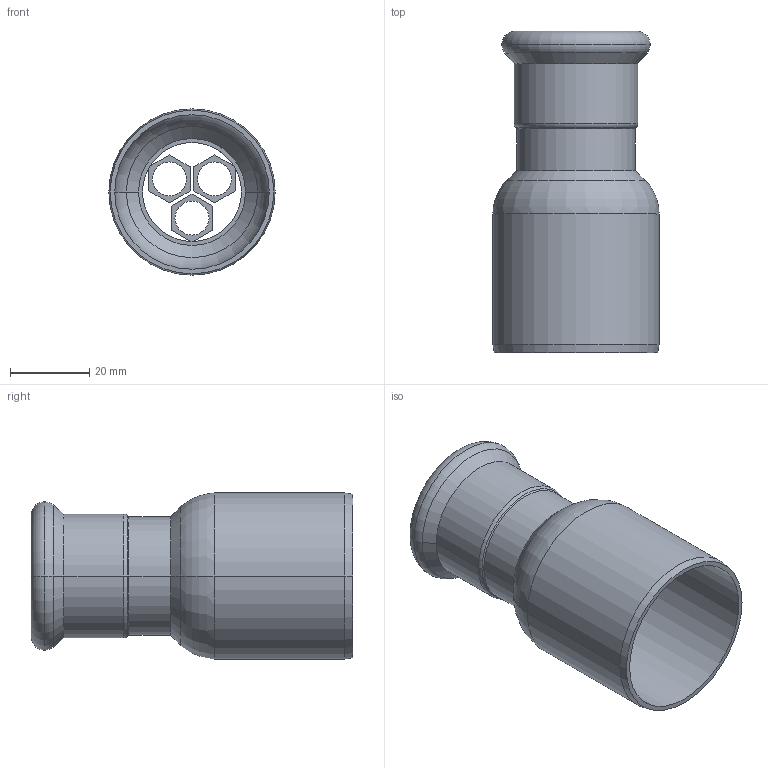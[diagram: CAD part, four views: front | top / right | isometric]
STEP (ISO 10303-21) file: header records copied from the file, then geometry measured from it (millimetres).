
FILE_DESCRIPTION(('OneSpaceDesigner STEP Export'),'2;1');
FILE_NAME('R2707 28x42.stp','2010-06-09T13:25:15',(''),(''),'OneSpace Designer STEP processor for AP214 (Solid Model)','OneSpace Modeling 15.00A 14-Mar-2007 (C) CoCreate Software GmbH','');
FILE_SCHEMA(('AUTOMOTIVE_DESIGN { 1 0 10303 214 1 1 1 1 }'));
Length unit declared in the file: millimetre
Products named in the file (2): R2707_28x42
Assembly tree (1 placements, depth 2):
  R2707_28x42
    R2707_28x42
Bounding box: 42 x 81.2 x 42 mm (x, y, z)
Volume: 16289.6 mm3; surface area: 19890.2 mm2
Topology: 1 solids, 1 shells, 77 faces, 182 edges, 113 vertices
Faces by surface type: plane 32, cylinder 25, cone 10, torus 10
Entity records: 1953 total; most frequent: ORIENTED_EDGE 364, CARTESIAN_POINT 309, DIRECTION 291, EDGE_CURVE 182, VERTEX_POINT 113, VECTOR 101, LINE 101, AXIS2_PLACEMENT_3D 95
